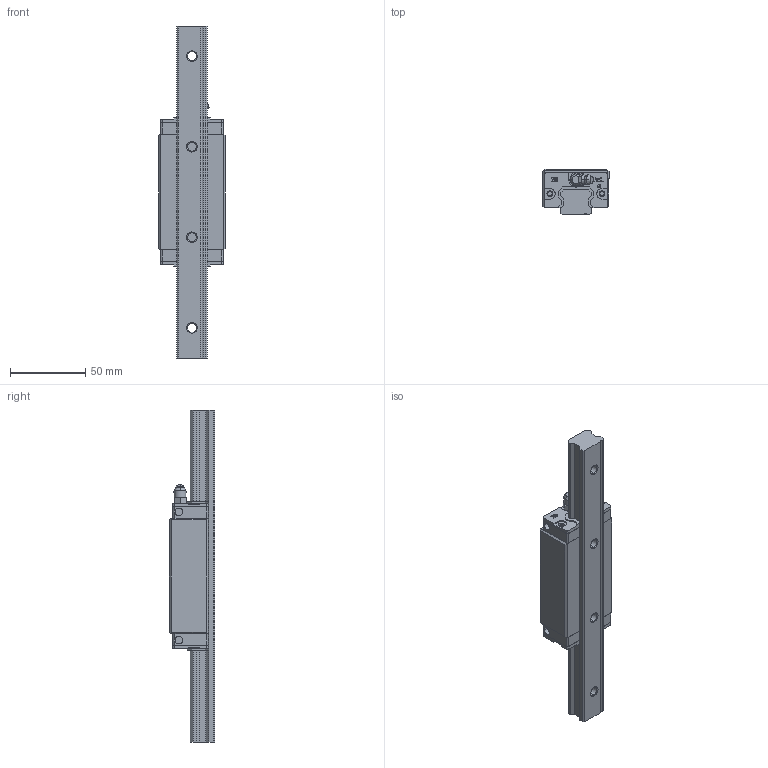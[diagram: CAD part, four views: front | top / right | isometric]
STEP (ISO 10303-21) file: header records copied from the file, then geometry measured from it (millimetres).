
FILE_DESCRIPTION (( 'STEP AP203' ), '1' );
FILE_NAME ('BGCH20BE.STEP', '2025-10-20T06:17:17', ( '' ), ( '' ), 'SwSTEP 2.0', 'SolidWorks 2020', '' );
FILE_SCHEMA (( 'CONFIG_CONTROL_DESIGN' ));
Length unit declared in the file: millimetre
Products named in the file (5): BGXH20BE; NGX02; BG20端防塵; BGR20-L220; BGCH20BE
Assembly tree (5 placements, depth 2):
  BGCH20BE
    BGR20-L220
    BGXH20BE
    BG20端防塵  x2
    NGX02
Bounding box: 43.95 x 30 x 220 mm (x, y, z)
Volume: 142839.9 mm3; surface area: 43502.9 mm2
Topology: 7 solids, 7 shells, 711 faces, 1903 edges, 1255 vertices
Faces by surface type: plane 483, cylinder 131, bspline 56, cone 37, torus 4
Entity records: 17471 total; most frequent: CARTESIAN_POINT 4647, ORIENTED_EDGE 2590, DIRECTION 2440, EDGE_CURVE 1295, VECTOR 916, LINE 916, VERTEX_POINT 851, AXIS2_PLACEMENT_3D 762
